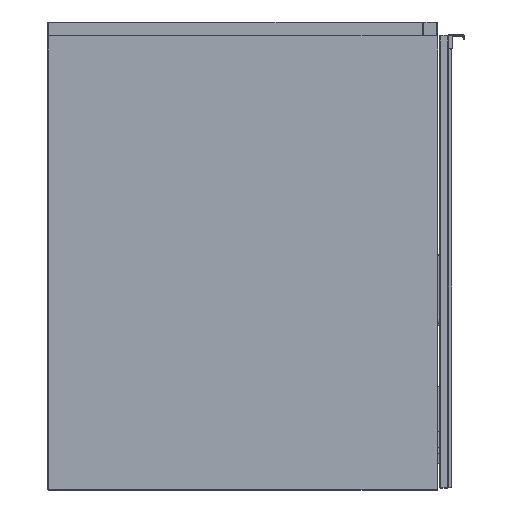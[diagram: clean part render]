
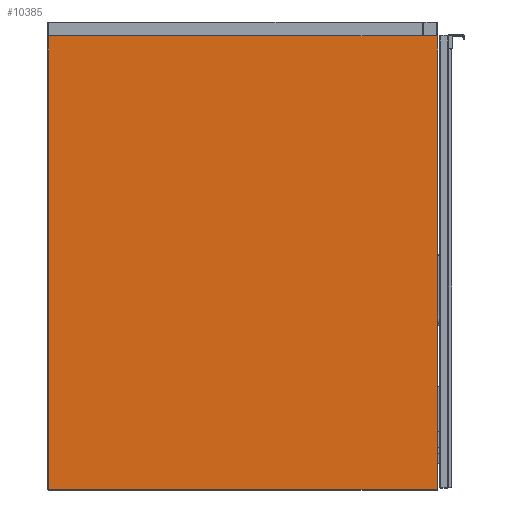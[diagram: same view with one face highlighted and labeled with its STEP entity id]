
A CAD part, left-side view. The second image highlights one B-rep face of the part: STEP entity #10385.
In plain terms, the highlighted planar face has unit normal (-1, 0, 0).
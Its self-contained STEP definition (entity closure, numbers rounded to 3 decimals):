
#443=PLANE('',#11252);
#1262=FACE_OUTER_BOUND('',#1913,.T.);
#1913=EDGE_LOOP('',(#8189,#8190,#8191,#8192));
#2858=LINE('',#17082,#3844);
#2859=LINE('',#17084,#3845);
#2860=LINE('',#17086,#3846);
#2861=LINE('',#17087,#3847);
#3844=VECTOR('',#13636,518.);
#3845=VECTOR('',#13637,444.);
#3846=VECTOR('',#13638,518.);
#3847=VECTOR('',#13639,444.);
#4679=VERTEX_POINT('',#17080);
#4680=VERTEX_POINT('',#17081);
#4681=VERTEX_POINT('',#17083);
#4682=VERTEX_POINT('',#17085);
#5862=EDGE_CURVE('',#4679,#4680,#2858,.T.);
#5863=EDGE_CURVE('',#4680,#4681,#2859,.T.);
#5864=EDGE_CURVE('',#4681,#4682,#2860,.T.);
#5865=EDGE_CURVE('',#4682,#4679,#2861,.T.);
#8189=ORIENTED_EDGE('',*,*,#5862,.T.);
#8190=ORIENTED_EDGE('',*,*,#5863,.T.);
#8191=ORIENTED_EDGE('',*,*,#5864,.T.);
#8192=ORIENTED_EDGE('',*,*,#5865,.T.);
#10385=ADVANCED_FACE('',(#1262),#443,.F.);
#11252=AXIS2_PLACEMENT_3D('',#17079,#13634,#13635);
#13634=DIRECTION('center_axis',(1.,0.,0.));
#13635=DIRECTION('ref_axis',(0.,-1.,0.));
#13636=DIRECTION('',(0.,0.,-1.));
#13637=DIRECTION('',(0.,-1.,0.));
#13638=DIRECTION('',(0.,0.,1.));
#13639=DIRECTION('',(0.,1.,0.));
#17079=CARTESIAN_POINT('Origin',(-370.,-446.,0.));
#17080=CARTESIAN_POINT('',(-370.,-1.,519.));
#17081=CARTESIAN_POINT('',(-370.,-1.,1.));
#17082=CARTESIAN_POINT('',(-370.,-1.,0.));
#17083=CARTESIAN_POINT('',(-370.,-445.,1.));
#17084=CARTESIAN_POINT('',(-370.,-446.,1.));
#17085=CARTESIAN_POINT('',(-370.,-445.,519.));
#17086=CARTESIAN_POINT('',(-370.,-445.,0.));
#17087=CARTESIAN_POINT('',(-370.,-446.,519.));
